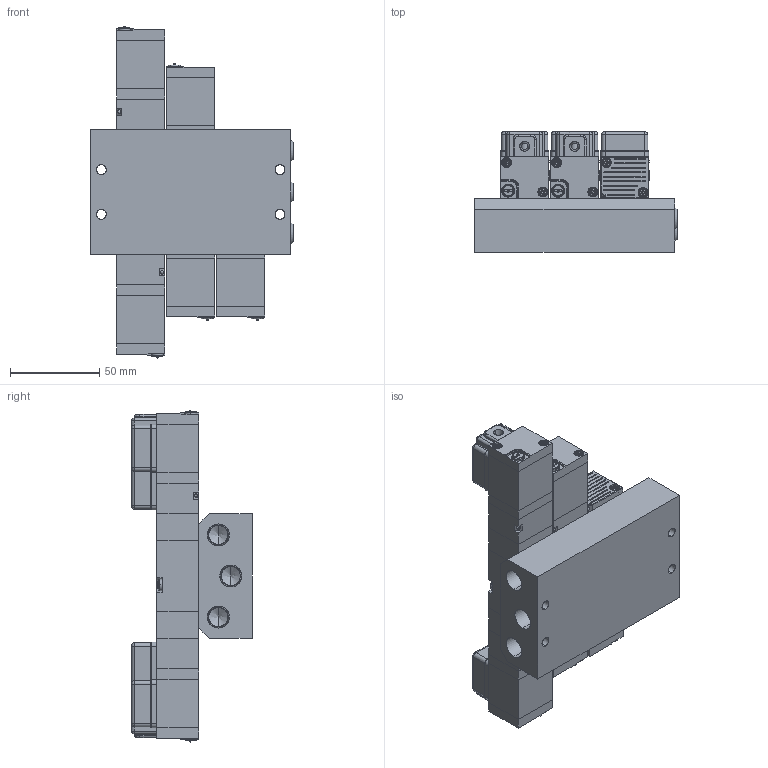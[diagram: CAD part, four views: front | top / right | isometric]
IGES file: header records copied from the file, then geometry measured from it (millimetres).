
Start section: SolidWorks IGES file using analytic representation for surfaces
Global section: file name: D:\Custom\3D繪製\PC\PC06\MFB#-PC06-02-G.IGS,1; native system: 5HSolidWorks 2014; preprocessor: SolidWorks 2014; author: Chieh_Lu; date: 150821.142354; units: millimetre
Bounding box: 113.51 x 67.5 x 185.95 mm (x, y, z)
Surface area: 130434.9 mm2 (no closed solid volume)
Topology: 0 solids, 0 shells, 1933 faces, 17287 edges, 17163 vertices
Faces by surface type: bspline 1181, revolution 752
